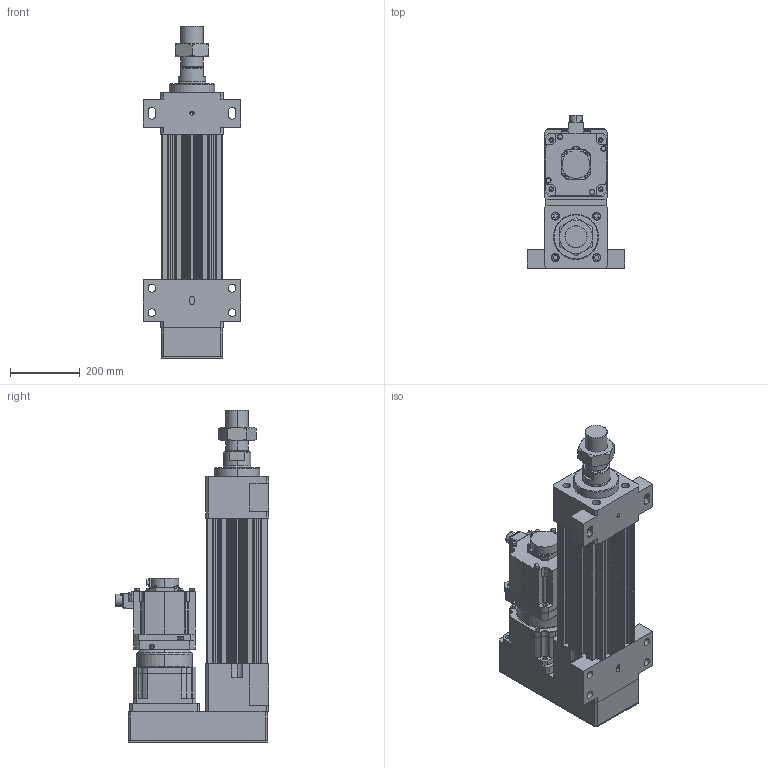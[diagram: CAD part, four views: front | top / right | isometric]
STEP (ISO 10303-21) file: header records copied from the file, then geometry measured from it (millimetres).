
FILE_DESCRIPTION (( 'STEP AP203' ), '1' );
FILE_NAME ('HES180HS-P100-W050G00-M-FFB.STEP', '2023-02-01T06:22:06', ( 'tms' ), ( '' ), 'SwSTEP 2.0', 'SolidWorks 2013', '' );
FILE_SCHEMA (( 'CONFIG_CONTROL_DESIGN' ));
Length unit declared in the file: millimetre
Products named in the file (9): AB180-003[HG-SR702B]; AB1801; HES180-P100-G180-FFB; HES180 ROD M ST100; P0403600401; HES180HS-P100-W050G00-M-FFB; M64X2.0P; HG-SR502; P1301600001
Assembly tree (8 placements, depth 3):
  HES180HS-P100-W050G00-M-FFB
    HES180-P100-G180-FFB
    HES180 ROD M ST100
    M64X2.0P
    AB180-003[HG-SR702B]
      AB1801
      P1301600001
      P0403600401
    HG-SR502
Bounding box: 280 x 438.85 x 952 mm (x, y, z)
Volume: 24477035.7 mm3; surface area: 1988389.7 mm2
Topology: 4 solids, 19 shells, 1446 faces, 3761 edges, 2443 vertices
Faces by surface type: cylinder 668, plane 567, cone 144, bspline 63, torus 4
Entity records: 53114 total; most frequent: CARTESIAN_POINT 16078, DIRECTION 7777, ORIENTED_EDGE 7426, EDGE_CURVE 3737, AXIS2_PLACEMENT_3D 2922, VERTEX_POINT 2443, VECTOR 1933, LINE 1933
